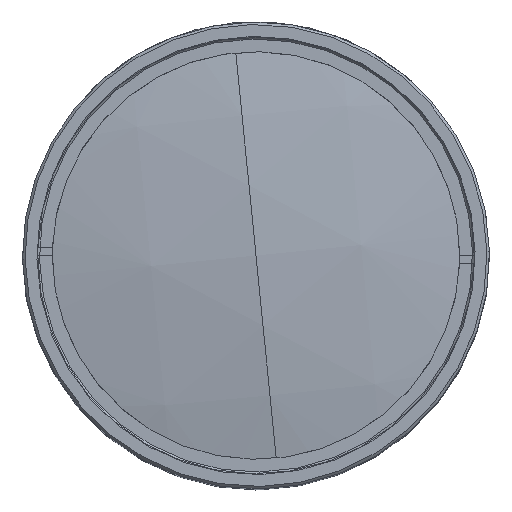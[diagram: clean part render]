
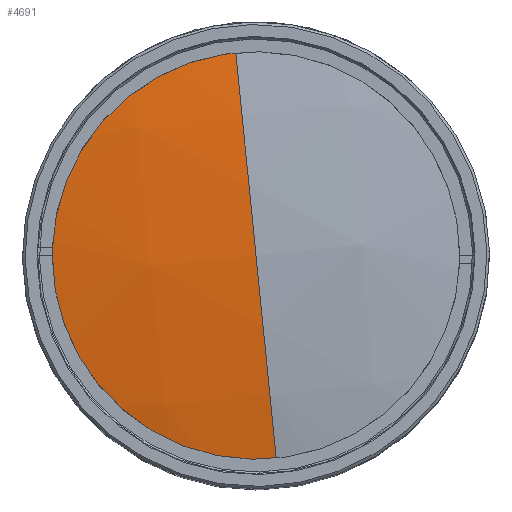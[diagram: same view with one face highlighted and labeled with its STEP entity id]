
A CAD part, top view. The second image highlights one B-rep face of the part: STEP entity #4691.
In plain terms, the highlighted spherical face has radius 138.5 mm.
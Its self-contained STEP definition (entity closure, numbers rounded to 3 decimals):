
#600 = EDGE_CURVE ( 'NONE', #11755, #12625, #10550, .T. ) ;
#1032 = CIRCLE ( 'NONE', #8080, 138.5 ) ;
#1969 = CARTESIAN_POINT ( 'NONE',  ( -2.458, 24.628, 154.259 ) ) ;
#2029 = CARTESIAN_POINT ( 'NONE',  ( 0., 0., 154.259 ) ) ;
#2126 = ORIENTED_EDGE ( 'NONE', *, *, #3357, .F. ) ;
#2176 = DIRECTION ( 'NONE',  ( 0., 0., 1. ) ) ;
#3357 = EDGE_CURVE ( 'NONE', #11755, #14604, #1032, .T. ) ;
#3694 = AXIS2_PLACEMENT_3D ( 'NONE', #9209, #2176, #10311 ) ;
#4550 = CARTESIAN_POINT ( 'NONE',  ( 0., 0., 17.988 ) ) ;
#4691 = ADVANCED_FACE ( 'NONE', ( #11048 ), #14286, .T. ) ;
#4978 = CIRCLE ( 'NONE', #5608, 138.5 ) ;
#5608 = AXIS2_PLACEMENT_3D ( 'NONE', #12348, #17702, #9411 ) ;
#6239 = CARTESIAN_POINT ( 'NONE',  ( 0., 0., 156.488 ) ) ;
#6341 = DIRECTION ( 'NONE',  ( 0., 0., 1. ) ) ;
#6970 = DIRECTION ( 'NONE',  ( 0.995, 0.099, 0. ) ) ;
#7562 = DIRECTION ( 'NONE',  ( -0.995, -0.099, 0. ) ) ;
#7638 = EDGE_LOOP ( 'NONE', ( #17524, #15375, #10586, #2126 ) ) ;
#8080 = AXIS2_PLACEMENT_3D ( 'NONE', #16713, #6970, #12559 ) ;
#8496 = VERTEX_POINT ( 'NONE', #9731 ) ;
#8819 = AXIS2_PLACEMENT_3D ( 'NONE', #2029, #6341, #11918 ) ;
#9209 = CARTESIAN_POINT ( 'NONE',  ( 0., 0., 154.259 ) ) ;
#9411 = DIRECTION ( 'NONE',  ( 0.099, -0.995, 0. ) ) ;
#9731 = CARTESIAN_POINT ( 'NONE',  ( 2.458, -24.628, 154.259 ) ) ;
#10311 = DIRECTION ( 'NONE',  ( 0.995, 0.099, 0. ) ) ;
#10381 = CIRCLE ( 'NONE', #3694, 24.75 ) ;
#10450 = CARTESIAN_POINT ( 'NONE',  ( -24.628, -2.458, 154.259 ) ) ;
#10550 = CIRCLE ( 'NONE', #8819, 24.75 ) ;
#10586 = ORIENTED_EDGE ( 'NONE', *, *, #17008, .T. ) ;
#11048 = FACE_OUTER_BOUND ( 'NONE', #7638, .T. ) ;
#11241 = AXIS2_PLACEMENT_3D ( 'NONE', #4550, #7562, #12895 ) ;
#11474 = EDGE_CURVE ( 'NONE', #12625, #8496, #10381, .T. ) ;
#11755 = VERTEX_POINT ( 'NONE', #1969 ) ;
#11918 = DIRECTION ( 'NONE',  ( 0.995, 0.099, 0. ) ) ;
#12348 = CARTESIAN_POINT ( 'NONE',  ( 0., 0., 17.988 ) ) ;
#12559 = DIRECTION ( 'NONE',  ( -0.099, 0.995, 0. ) ) ;
#12625 = VERTEX_POINT ( 'NONE', #10450 ) ;
#12895 = DIRECTION ( 'NONE',  ( -0.099, 0.995, 0. ) ) ;
#14286 = SPHERICAL_SURFACE ( 'NONE', #11241, 138.5 ) ;
#14604 = VERTEX_POINT ( 'NONE', #6239 ) ;
#15375 = ORIENTED_EDGE ( 'NONE', *, *, #11474, .T. ) ;
#16713 = CARTESIAN_POINT ( 'NONE',  ( 0., 0., 17.988 ) ) ;
#17008 = EDGE_CURVE ( 'NONE', #8496, #14604, #4978, .T. ) ;
#17524 = ORIENTED_EDGE ( 'NONE', *, *, #600, .T. ) ;
#17702 = DIRECTION ( 'NONE',  ( -0.995, -0.099, 0. ) ) ;
